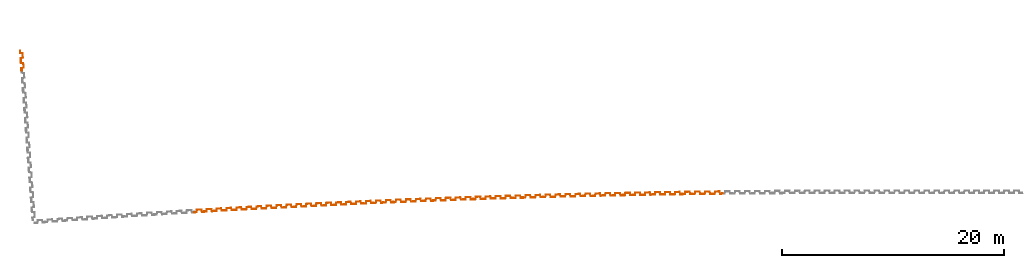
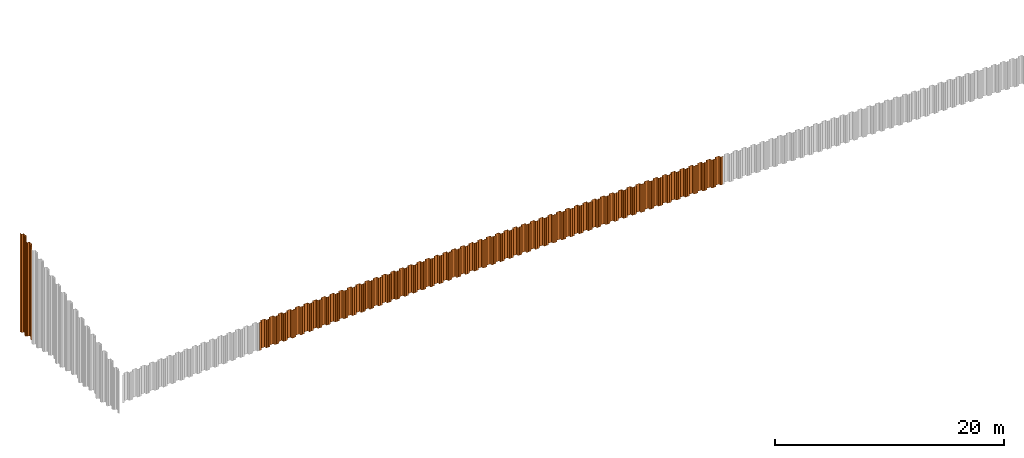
# One storey, part 6 of 12: 55 proxies.
"""IFC2X3 building model written with IfcOpenShell, lengths in millimetres."""

from ifc_helpers import new_model, entity, si_unit, converted_unit, derived_unit, direction, frame, frame_2d, origin, place, context, subcontext, project, spatial, polyline, circle_curve, parameter, trimmed, segment, composite_curve, outline, extrude, source, transform, mapped, material, type_object, type_shapes, element, save


model = new_model("IFC2X3")

# Units and contexts
model_context = context("Model", 3, precision=0.01, world=origin(), true_north=direction((6.12303176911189e-17, 1.0)))
body_context = subcontext(model_context, "Body", "Model", "MODEL_VIEW")
ifc_project = project(units=[si_unit("LENGTHUNIT", "METRE", prefix="MILLI"), si_unit("AREAUNIT", "SQUARE_METRE"), si_unit("VOLUMEUNIT", "CUBIC_METRE"), converted_unit("PLANEANGLEUNIT", "DEGREE", entity("IfcRatioMeasure", 0.0174532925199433), si_unit("PLANEANGLEUNIT", "RADIAN"), dimensions=[0, 0, 0, 0, 0, 0, 0]), si_unit("MASSUNIT", "GRAM", prefix="KILO"), derived_unit("MASSDENSITYUNIT", [(si_unit("MASSUNIT", "GRAM", prefix="KILO"), 1), (si_unit("LENGTHUNIT", "METRE"), -3)]), derived_unit("MOMENTOFINERTIAUNIT", [(si_unit("LENGTHUNIT", "METRE"), 4)]), si_unit("TIMEUNIT", "SECOND"), si_unit("FREQUENCYUNIT", "HERTZ"), si_unit("THERMODYNAMICTEMPERATUREUNIT", "DEGREE_CELSIUS"), derived_unit("THERMALTRANSMITTANCEUNIT", [(si_unit("MASSUNIT", "GRAM", prefix="KILO"), 1), (si_unit("THERMODYNAMICTEMPERATUREUNIT", "KELVIN"), -1), (si_unit("TIMEUNIT", "SECOND"), -3)]), derived_unit("VOLUMETRICFLOWRATEUNIT", [(si_unit("LENGTHUNIT", "METRE"), 3), (si_unit("TIMEUNIT", "SECOND"), -1)]), si_unit("ELECTRICCURRENTUNIT", "AMPERE"), si_unit("ELECTRICVOLTAGEUNIT", "VOLT"), si_unit("POWERUNIT", "WATT"), si_unit("FORCEUNIT", "NEWTON", prefix="KILO"), si_unit("ILLUMINANCEUNIT", "LUX"), si_unit("LUMINOUSFLUXUNIT", "LUMEN"), si_unit("LUMINOUSINTENSITYUNIT", "CANDELA"), derived_unit("USERDEFINED", [(si_unit("MASSUNIT", "GRAM", prefix="KILO"), -1), (si_unit("LENGTHUNIT", "METRE"), -2), (si_unit("TIMEUNIT", "SECOND"), 3), (si_unit("LUMINOUSFLUXUNIT", "LUMEN"), 1)]), derived_unit("LINEARVELOCITYUNIT", [(si_unit("LENGTHUNIT", "METRE"), 1), (si_unit("TIMEUNIT", "SECOND"), -1)]), si_unit("PRESSUREUNIT", "PASCAL"), derived_unit("USERDEFINED", [(si_unit("LENGTHUNIT", "METRE"), -2), (si_unit("MASSUNIT", "GRAM", prefix="KILO"), 1), (si_unit("TIMEUNIT", "SECOND"), -2)]), derived_unit("LINEARFORCEUNIT", [(si_unit("MASSUNIT", "GRAM", prefix="KILO"), 1), (si_unit("LENGTHUNIT", "METRE"), 1), (si_unit("TIMEUNIT", "SECOND"), -2), (si_unit("LENGTHUNIT", "METRE"), -1)]), derived_unit("PLANARFORCEUNIT", [(si_unit("MASSUNIT", "GRAM", prefix="KILO"), 1), (si_unit("LENGTHUNIT", "METRE"), 1), (si_unit("TIMEUNIT", "SECOND"), -2), (si_unit("LENGTHUNIT", "METRE"), -2)])], contexts=[model_context])

# Site, building, storey
site_placement = place(None, origin())
site = spatial("IfcSite", under=ifc_project, at=site_placement, Name="Default", CompositionType="ELEMENT")
building_placement = place(site_placement, origin())
building = spatial("IfcBuilding", under=site, at=building_placement, CompositionType="ELEMENT")
storey_placement = place(building_placement, frame((0.0, 0.0, 10600.0)))
storey = spatial("IfcBuildingStorey", under=building, at=storey_placement, Name="AP+10.600", CompositionType="ELEMENT", Elevation=10600.0)

# Proxies
ifc_material = material(Name="<Unnamed>")
building_element_proxy_type_1 = type_object("IfcBuildingElementProxyType", Name="鋼矢板10H型:鋼矢板10H型", PredefinedType="NOTDEFINED", material=ifc_material)
shared_shape_1 = source(origin(), body_context, "Body", "SweptSolid", [
    extrude(outline(composite_curve([segment(trimmed(circle_curve(frame_2d((85.3662976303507, 306.644432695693), x_axis=(0.422618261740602, 0.906307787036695)), 13.885714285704), [parameter(24.9999999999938)], [parameter(90.0000000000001)], True, "PARAMETER"), True, "CONTINUOUS"), segment(polyline([(72.7815666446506, 312.512789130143), (9.8129512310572, 177.476157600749)]), True, "CONTINUOUS"), segment(trimmed(circle_curve(frame_2d((29.3891994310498, 168.347603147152), x_axis=(0.422618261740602, 0.906307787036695)), 21.6), [parameter(90.0000000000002)], [parameter(168.69006752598)], True, "PARAMETER"), True, "CONTINUOUS"), segment(polyline([(16.598697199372, 150.941769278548), (175.329723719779, 34.2998683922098)]), True, "CONTINUOUS"), segment(trimmed(circle_curve(frame_2d((168.93447260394, 25.596951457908), x_axis=(0.422618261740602, 0.906307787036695)), 10.7999999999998), [parameter(270.0)], [parameter(348.690067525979)], True, "PARAMETER"), False, "CONTINUOUS"), segment(polyline([(178.722596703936, 21.0326742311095), (18.2974003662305, -323.000269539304)]), True, "CONTINUOUS"), segment(trimmed(circle_curve(frame_2d((8.50927626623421, -318.435992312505), x_axis=(0.422618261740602, 0.906307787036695)), 10.8), [parameter(191.30993247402)], [parameter(269.999999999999)], True, "PARAMETER"), False, "CONTINUOUS"), segment(polyline([(5.95324328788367, -328.929166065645), (-185.429973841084, -282.310113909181)]), True, "CONTINUOUS"), segment(trimmed(circle_curve(frame_2d((-190.542039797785, -303.296461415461), x_axis=(0.422618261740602, 0.906307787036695)), 21.6000000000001), [parameter(11.3099324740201)], [parameter(90.0000000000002)], True, "PARAMETER"), True, "CONTINUOUS"), segment(polyline([(-210.118287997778, -294.167906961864), (-290.330886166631, -466.184378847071)]), True, "CONTINUOUS"), segment(trimmed(circle_curve(frame_2d((-270.754637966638, -475.312933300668), x_axis=(0.422618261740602, 0.906307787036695)), 21.6), [parameter(90.0000000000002)], [parameter(269.999999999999)], True, "PARAMETER"), True, "CONTINUOUS"), segment(polyline([(-251.178389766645, -484.441487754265), (-249.065298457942, -479.909948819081)]), True, "CONTINUOUS"), segment(polyline([(-249.065298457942, -479.909948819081), (-258.853422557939, -475.345671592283)]), True, "CONTINUOUS"), segment(polyline([(-258.853422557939, -475.345671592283), (-260.966513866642, -479.877210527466)]), True, "CONTINUOUS"), segment(trimmed(circle_curve(frame_2d((-270.754637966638, -475.312933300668), x_axis=(0.422618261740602, 0.906307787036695)), 10.8), [parameter(90.0000000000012)], [parameter(270.0)], True, "PARAMETER"), False, "CONTINUOUS"), segment(polyline([(-280.542762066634, -470.748656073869), (-200.330163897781, -298.732184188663)]), True, "CONTINUOUS"), segment(trimmed(circle_curve(frame_2d((-190.542039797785, -303.296461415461), x_axis=(0.422618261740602, 0.906307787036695)), 10.8), [parameter(11.3099324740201)], [parameter(89.9999999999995)], True, "PARAMETER"), False, "CONTINUOUS"), segment(polyline([(-187.986006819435, -292.803287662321), (3.39721030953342, -339.422339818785)]), True, "CONTINUOUS"), segment(trimmed(circle_curve(frame_2d((8.50927626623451, -318.435992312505), x_axis=(0.422618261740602, 0.906307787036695)), 21.6), [parameter(191.30993247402)], [parameter(270.0)], True, "PARAMETER"), True, "CONTINUOUS"), segment(polyline([(28.0855244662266, -327.564546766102), (188.510720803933, 16.4683970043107)]), True, "CONTINUOUS"), segment(trimmed(circle_curve(frame_2d((168.93447260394, 25.5969514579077), x_axis=(0.422618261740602, 0.906307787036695)), 21.6), [parameter(270.0)], [parameter(348.69006752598)], True, "PARAMETER"), True, "CONTINUOUS"), segment(polyline([(181.724974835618, 43.0027853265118), (22.9939483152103, 159.644686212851)]), True, "CONTINUOUS"), segment(trimmed(circle_curve(frame_2d((29.3891994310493, 168.347603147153), x_axis=(0.422618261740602, 0.906307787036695)), 10.7999999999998), [parameter(89.9999999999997)], [parameter(168.690067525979)], True, "PARAMETER"), False, "CONTINUOUS"), segment(polyline([(19.6010753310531, 172.911880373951), (82.5696907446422, 307.948511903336)]), True, "CONTINUOUS"), segment(trimmed(circle_curve(frame_2d((85.3662976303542, 306.64443269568), x_axis=(0.422618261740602, 0.906307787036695)), 3.08571428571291), [parameter(25.0000000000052)], [parameter(90.0000000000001)], True, "PARAMETER"), False, "CONTINUOUS"), segment(polyline([(85.3662976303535, 309.730146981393), (122.220231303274, 309.730146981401)]), True, "CONTINUOUS"), segment(trimmed(circle_curve(frame_2d((122.220231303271, 323.615861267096), x_axis=(0.422618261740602, 0.906307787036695)), 13.8857142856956), [parameter(205.000000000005)], [parameter(270.0)], True, "PARAMETER"), True, "CONTINUOUS"), segment(polyline([(134.804962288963, 317.747504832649), (141.079261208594, 331.202782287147)]), True, "CONTINUOUS"), segment(trimmed(circle_curve(frame_2d((121.503013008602, 340.331336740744), x_axis=(0.422618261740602, 0.906307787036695)), 21.6), [parameter(270.0)], [parameter(90.0000000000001)], True, "PARAMETER"), True, "CONTINUOUS"), segment(polyline([(101.926764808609, 349.459891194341), (99.8136734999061, 344.928352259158)]), True, "CONTINUOUS"), segment(polyline([(99.8136734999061, 344.928352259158), (109.601797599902, 340.364075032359)]), True, "CONTINUOUS"), segment(polyline([(109.601797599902, 340.364075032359), (111.714888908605, 344.895613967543)]), True, "CONTINUOUS"), segment(trimmed(circle_curve(frame_2d((121.503013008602, 340.331336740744), x_axis=(0.422618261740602, 0.906307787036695)), 10.8), [parameter(270.0)], [parameter(89.9999999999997)], True, "PARAMETER"), False, "CONTINUOUS"), segment(polyline([(131.291137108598, 335.767059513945), (125.01683818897, 322.311782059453)]), True, "CONTINUOUS"), segment(trimmed(circle_curve(frame_2d((122.220231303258, 323.615861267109), x_axis=(0.422618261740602, 0.906307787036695)), 3.08571428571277), [parameter(204.999999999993)], [parameter(270.0)], True, "PARAMETER"), False, "CONTINUOUS"), segment(polyline([(122.220231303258, 320.530146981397), (85.3662976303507, 320.530146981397)]), True, "CONTINUOUS")], self_intersect=False)), frame((95.205667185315, -48.8888888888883, -3000.0), z_axis=(0.0, 0.0, -1.0), x_axis=(0.4226182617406, 0.906307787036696, 0.0)), (0.0, 0.0, -1.0), 3000.0),
])
type_shapes(building_element_proxy_type_1, [shared_shape_1])
for number, where, z_axis, x_axis in (
    (1, (-26862.7466316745, -15514.3763509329, -650.0), (0.0, 0.0, 1.0), (0.999934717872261, 0.0114262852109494, 0.0)),
    (2, (-27762.6822720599, -15525.0713249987, -650.0), (0.0, 0.0, 1.0), (0.999923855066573, 0.0123403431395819, 0.0)),
    (3, (-28662.6079072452, -15536.5889481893, -650.0), (0.0, 0.0, 1.0), (0.999912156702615, 0.0132543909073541, 0.0)),
    (4, (-29562.5224905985, -15548.929206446, -650.0), (0.0, 0.0, 1.0), (0.999899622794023, 0.014168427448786, 0.0)),
    (5, (-30462.4255647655, -15562.0920941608, -650.0), (0.0, 0.0, 1.0), (0.999886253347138, 0.0150824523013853, 0.0)),
    (6, (-31362.316083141, -15576.0775953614, -650.0), (0.0, 0.0, 1.0), (0.999872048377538, 0.0159964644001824, 0.0)),
    (7, (-32262.1935883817, -15590.8857036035, -650.0), (0.0, 0.0, 1.0), (0.999857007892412, 0.0169104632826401, 0.0)),
    (8, (-33162.0570339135, -15606.5164010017, -650.0), (0.0, 0.0, 1.0), (0.999841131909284, 0.0178244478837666, 0.0)),
    (9, (-34061.9059624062, -15622.9696802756, -650.0), (0.0, 0.0, 1.0), (0.999824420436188, 0.0187384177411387, 0.0)),
    (10, (-34961.7393273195, -15640.2455216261, -650.0), (0.0, 0.0, 1.0), (0.999806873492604, 0.0196523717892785, 0.0)),
    (11, (-35861.5566713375, -15658.3439169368, -650.0), (0.0, 0.0, 1.0), (0.999788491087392, 0.0205663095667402, 0.0)),
    (12, (-36761.3569479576, -15677.2648444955, -650.0), (0.0, 0.0, 1.0), (0.999769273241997, 0.0214802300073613, 0.0)),
    (13, (-37661.1396998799, -15697.0082953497, -650.0), (0.0, 0.0, 1.0), (0.999749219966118, 0.0223941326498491, 0.0)),
    (14, (-38560.903880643, -15717.5742458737, -650.0), (0.0, 0.0, 1.0), (0.999728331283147, 0.0233080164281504, 0.0)),
    (15, (-39460.6490329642, -15738.9626862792, -650.0), (0.0, 0.0, 1.0), (0.999706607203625, 0.0242218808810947, 0.0)),
    (16, (-40360.3741104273, -15761.1735910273, -650.0), (0.0, 0.0, 1.0), (0.999684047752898, 0.0251357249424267, 0.0)),
    (17, (-41260.0786557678, -15784.2069494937, -650.0), (0.0, 0.0, 1.0), (0.999660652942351, 0.0260495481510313, 0.0)),
    (18, (-42159.7616226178, -15808.0627342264, -650.0), (0.0, 0.0, 1.0), (0.999636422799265, 0.0269633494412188, 0.0)),
    (19, (-43059.4225537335, -15832.7409337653, -650.0), (0.0, 0.0, 1.0), (0.999611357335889, 0.0278771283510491, 0.0)),
    (20, (-43959.0604027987, -15858.2415187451, -650.0), (0.0, 0.0, 1.0), (0.999585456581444, 0.0287908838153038, 0.0)),
    (21, (-44858.6747125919, -15884.56447687, -650.0), (0.0, 0.0, 1.0), (0.999558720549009, 0.0297046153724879, 0.0)),
    (22, (-45758.2644368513, -15911.7097768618, -650.0), (0.0, 0.0, 1.0), (0.999531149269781, 0.0306183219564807, 0.0)),
    (23, (-46657.8291183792, -15939.6774055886, -650.0), (0.0, 0.0, 1.0), (0.999502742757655, 0.0315320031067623, 0.0)),
    (24, (-47557.3677109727, -15968.4673298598, -650.0), (0.0, 0.0, 1.0), (0.999473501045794, 0.0324456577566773, 0.0)),
    (25, (-48456.8797574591, -15998.0795357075, -650.0), (0.0, 0.0, 1.0), (0.99944342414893, 0.0333592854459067, 0.0)),
    (26, (-49356.3642116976, -16028.5139880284, -650.0), (0.0, 0.0, 1.0), (0.999412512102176, 0.0342728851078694, 0.0)),
    (27, (-50255.8206165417, -16059.7706720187, -650.0), (0.0, 0.0, 1.0), (0.999380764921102, 0.035186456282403, 0.0)),
    (28, (-51155.247925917, -16091.8495506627, -650.0), (0.0, 0.0, 1.0), (0.999348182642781, 0.0360999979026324, 0.0)),
    (29, (-52054.645682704, -16124.7506083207, -650.0), (0.0, 0.0, 1.0), (0.99931476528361, 0.0370135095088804, 0.0)),
    (30, (-52954.0128408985, -16158.4738060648, -650.0), (0.0, 0.0, 1.0), (0.999280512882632, 0.0379269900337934, 0.0)),
    (31, (-53853.3489434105, -16193.0191274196, -650.0), (0.0, 0.0, 1.0), (0.999245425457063, 0.0388404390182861, 0.0)),
    (32, (-54752.6529443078, -16228.3865315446, -650.0), (0.0, 0.0, 1.0), (0.999209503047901, 0.0397538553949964, 0.0)),
    (33, (-55651.9243865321, -16264.576001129, -650.0), (0.0, 0.0, 1.0), (0.99917274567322, 0.0406672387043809, 0.0)),
    (34, (-56551.1622242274, -16301.5874934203, -650.0), (0.0, 0.0, 1.0), (0.999135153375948, 0.0415805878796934, 0.0)),
    (35, (-57450.3660003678, -16339.4209902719, -650.0), (0.0, 0.0, 1.0), (0.999096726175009, 0.0424939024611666, 0.0)),
    (36, (-58349.5346691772, -16378.0764470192, -650.0), (0.0, 0.0, 1.0), (0.999057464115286, 0.043407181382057, 0.0)),
    (37, (-59248.6677736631, -16417.5538446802, -650.0), (0.0, 0.0, 1.0), (0.99901736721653, 0.0443204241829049, 0.0)),
    (38, (-60147.7642681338, -16457.8531366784, -650.0), (0.0, 0.0, 1.0), (0.998976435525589, 0.0452336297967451, 0.0)),
    (39, (-61046.8236956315, -16498.9743031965, -650.0), (0.0, 0.0, 1.0), (0.998934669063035, 0.0461467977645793, 0.0)),
    (40, (-61945.8450105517, -16540.9172957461, -650.0), (0.0, 0.0, 1.0), (0.998892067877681, 0.047059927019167, 0.0)),
    (41, (-62844.827755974, -16583.6820936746, -650.0), (0.0, 0.0, 1.0), (0.99884863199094, 0.0479730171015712, 0.0)),
    (42, (-63743.7708863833, -16627.2686465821, -650.0), (0.0, 0.0, 1.0), (0.99880436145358, 0.0488860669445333, 0.0)),
    (43, (-64642.6739448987, -16671.6769329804, -650.0), (0.0, 0.0, 1.0), (0.998759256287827, 0.0497990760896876, 0.0)),
    (44, (-65541.5358860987, -16716.9069005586, -650.0), (0.0, 0.0, 1.0), (0.998713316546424, 0.0507120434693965, 0.0)),
    (45, (-66440.3562531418, -16762.9585269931, -650.0), (0.0, 0.0, 1.0), (0.998666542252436, 0.0516249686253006, 0.0)),
    (46, (-67339.1340007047, -16809.8317580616, -650.0), (0.0, 0.0, 1.0), (0.998618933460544, 0.052537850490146, 0.0)),
    (47, (-68237.868671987, -16857.5265706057, -650.0), (0.0, 0.0, 1.0), (0.998570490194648, 0.0534506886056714, 0.0)),
    (48, (-69136.5592217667, -16906.0429084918, -650.0), (0.0, 0.0, 1.0), (0.998521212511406, 0.0543634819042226, 0.0)),
    (49, (-70035.2051932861, -16955.3807477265, -650.0), (0.0, 0.0, 1.0), (0.998471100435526, 0.0552762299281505, 0.0)),
    (50, (-70933.8055414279, -17005.5400302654, -650.0), (0.0, 0.0, 1.0), (0.998420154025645, 0.0561889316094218, 0.0)),
    (51, (-71832.3598094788, -17056.52073128, -650.0), (0.0, 0.0, 1.0), (0.998368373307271, 0.057101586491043, 0.0)),
    (52, (-72730.8669524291, -17108.3227908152, -650.0), (0.0, 0.0, 1.0), (0.998315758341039, 0.0580141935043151, 0.0)),
    (53, (-73629.3265136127, -17160.9461832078, -650.0), (0.0, 0.0, 1.0), (0.998262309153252, 0.058926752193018, 0.0)),
):
    element("IfcBuildingElementProxy", number, at=place(storey_placement, frame(where, z_axis=z_axis, x_axis=x_axis)), inside=storey, type_object=building_element_proxy_type_1, material=ifc_material, Name="鋼矢板10H型:鋼矢板10H型", ObjectType="鋼矢板10H型:鋼矢板10H型", context=body_context, shape_type="MappedRepresentation", body=[
        mapped(shared_shape_1, transform((0.0, 0.0, 0.0), scale=1.0)),
    ])
building_element_proxy_type_2 = type_object("IfcBuildingElementProxyType", Name="鋼矢板10H型:鋼矢板10H型", PredefinedType="NOTDEFINED", material=ifc_material)
shared_shape_2 = source(origin(), body_context, "Body", "SweptSolid", [
    extrude(outline(composite_curve([segment(trimmed(circle_curve(frame_2d((85.3662976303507, 306.644432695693), x_axis=(0.422618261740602, 0.906307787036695)), 13.885714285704), [parameter(24.9999999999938)], [parameter(90.0000000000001)], True, "PARAMETER"), True, "CONTINUOUS"), segment(polyline([(72.7815666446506, 312.512789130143), (9.8129512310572, 177.476157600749)]), True, "CONTINUOUS"), segment(trimmed(circle_curve(frame_2d((29.3891994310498, 168.347603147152), x_axis=(0.422618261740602, 0.906307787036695)), 21.6), [parameter(90.0000000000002)], [parameter(168.69006752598)], True, "PARAMETER"), True, "CONTINUOUS"), segment(polyline([(16.598697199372, 150.941769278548), (175.329723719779, 34.2998683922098)]), True, "CONTINUOUS"), segment(trimmed(circle_curve(frame_2d((168.93447260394, 25.596951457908), x_axis=(0.422618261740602, 0.906307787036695)), 10.7999999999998), [parameter(270.0)], [parameter(348.690067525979)], True, "PARAMETER"), False, "CONTINUOUS"), segment(polyline([(178.722596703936, 21.0326742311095), (18.2974003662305, -323.000269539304)]), True, "CONTINUOUS"), segment(trimmed(circle_curve(frame_2d((8.50927626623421, -318.435992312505), x_axis=(0.422618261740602, 0.906307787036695)), 10.8), [parameter(191.30993247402)], [parameter(269.999999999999)], True, "PARAMETER"), False, "CONTINUOUS"), segment(polyline([(5.95324328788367, -328.929166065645), (-185.429973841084, -282.310113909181)]), True, "CONTINUOUS"), segment(trimmed(circle_curve(frame_2d((-190.542039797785, -303.296461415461), x_axis=(0.422618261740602, 0.906307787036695)), 21.6000000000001), [parameter(11.3099324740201)], [parameter(90.0000000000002)], True, "PARAMETER"), True, "CONTINUOUS"), segment(polyline([(-210.118287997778, -294.167906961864), (-290.330886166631, -466.184378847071)]), True, "CONTINUOUS"), segment(trimmed(circle_curve(frame_2d((-270.754637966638, -475.312933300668), x_axis=(0.422618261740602, 0.906307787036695)), 21.6), [parameter(90.0000000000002)], [parameter(269.999999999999)], True, "PARAMETER"), True, "CONTINUOUS"), segment(polyline([(-251.178389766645, -484.441487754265), (-249.065298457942, -479.909948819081)]), True, "CONTINUOUS"), segment(polyline([(-249.065298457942, -479.909948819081), (-258.853422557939, -475.345671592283)]), True, "CONTINUOUS"), segment(polyline([(-258.853422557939, -475.345671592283), (-260.966513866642, -479.877210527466)]), True, "CONTINUOUS"), segment(trimmed(circle_curve(frame_2d((-270.754637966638, -475.312933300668), x_axis=(0.422618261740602, 0.906307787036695)), 10.8), [parameter(90.0000000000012)], [parameter(270.0)], True, "PARAMETER"), False, "CONTINUOUS"), segment(polyline([(-280.542762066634, -470.748656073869), (-200.330163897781, -298.732184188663)]), True, "CONTINUOUS"), segment(trimmed(circle_curve(frame_2d((-190.542039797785, -303.296461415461), x_axis=(0.422618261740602, 0.906307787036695)), 10.8), [parameter(11.3099324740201)], [parameter(89.9999999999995)], True, "PARAMETER"), False, "CONTINUOUS"), segment(polyline([(-187.986006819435, -292.803287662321), (3.39721030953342, -339.422339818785)]), True, "CONTINUOUS"), segment(trimmed(circle_curve(frame_2d((8.50927626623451, -318.435992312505), x_axis=(0.422618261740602, 0.906307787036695)), 21.6), [parameter(191.30993247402)], [parameter(270.0)], True, "PARAMETER"), True, "CONTINUOUS"), segment(polyline([(28.0855244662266, -327.564546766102), (188.510720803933, 16.4683970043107)]), True, "CONTINUOUS"), segment(trimmed(circle_curve(frame_2d((168.93447260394, 25.5969514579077), x_axis=(0.422618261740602, 0.906307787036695)), 21.6), [parameter(270.0)], [parameter(348.69006752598)], True, "PARAMETER"), True, "CONTINUOUS"), segment(polyline([(181.724974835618, 43.0027853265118), (22.9939483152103, 159.644686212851)]), True, "CONTINUOUS"), segment(trimmed(circle_curve(frame_2d((29.3891994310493, 168.347603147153), x_axis=(0.422618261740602, 0.906307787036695)), 10.7999999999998), [parameter(89.9999999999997)], [parameter(168.690067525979)], True, "PARAMETER"), False, "CONTINUOUS"), segment(polyline([(19.6010753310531, 172.911880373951), (82.5696907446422, 307.948511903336)]), True, "CONTINUOUS"), segment(trimmed(circle_curve(frame_2d((85.3662976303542, 306.64443269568), x_axis=(0.422618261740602, 0.906307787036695)), 3.08571428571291), [parameter(25.0000000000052)], [parameter(90.0000000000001)], True, "PARAMETER"), False, "CONTINUOUS"), segment(polyline([(85.3662976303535, 309.730146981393), (122.220231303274, 309.730146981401)]), True, "CONTINUOUS"), segment(trimmed(circle_curve(frame_2d((122.220231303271, 323.615861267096), x_axis=(0.422618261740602, 0.906307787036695)), 13.8857142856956), [parameter(205.000000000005)], [parameter(270.0)], True, "PARAMETER"), True, "CONTINUOUS"), segment(polyline([(134.804962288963, 317.747504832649), (141.079261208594, 331.202782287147)]), True, "CONTINUOUS"), segment(trimmed(circle_curve(frame_2d((121.503013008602, 340.331336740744), x_axis=(0.422618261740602, 0.906307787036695)), 21.6), [parameter(270.0)], [parameter(90.0000000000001)], True, "PARAMETER"), True, "CONTINUOUS"), segment(polyline([(101.926764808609, 349.459891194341), (99.8136734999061, 344.928352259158)]), True, "CONTINUOUS"), segment(polyline([(99.8136734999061, 344.928352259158), (109.601797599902, 340.364075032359)]), True, "CONTINUOUS"), segment(polyline([(109.601797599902, 340.364075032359), (111.714888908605, 344.895613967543)]), True, "CONTINUOUS"), segment(trimmed(circle_curve(frame_2d((121.503013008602, 340.331336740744), x_axis=(0.422618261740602, 0.906307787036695)), 10.8), [parameter(270.0)], [parameter(89.9999999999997)], True, "PARAMETER"), False, "CONTINUOUS"), segment(polyline([(131.291137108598, 335.767059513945), (125.01683818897, 322.311782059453)]), True, "CONTINUOUS"), segment(trimmed(circle_curve(frame_2d((122.220231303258, 323.615861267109), x_axis=(0.422618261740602, 0.906307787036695)), 3.08571428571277), [parameter(204.999999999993)], [parameter(270.0)], True, "PARAMETER"), False, "CONTINUOUS"), segment(polyline([(122.220231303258, 320.530146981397), (85.3662976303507, 320.530146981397)]), True, "CONTINUOUS")], self_intersect=False)), frame((95.205667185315, -48.8888888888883, -10000.0), z_axis=(0.0, 0.0, -1.0), x_axis=(0.4226182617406, 0.906307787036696, 0.0)), (0.0, 0.0, -1.0), 10000.0),
])
type_shapes(building_element_proxy_type_2, [shared_shape_2])
proxy_1_placement = place(storey_placement, frame((-89594.172445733, -4038.92493886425, 5165.75268431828), z_axis=(0.0, 0.0, 1.0), x_axis=(0.0743258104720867, -0.997234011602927, 0.0)))
element("IfcBuildingElementProxy", 54, at=proxy_1_placement, inside=storey, type_object=building_element_proxy_type_2, material=ifc_material, Name="鋼矢板10H型:鋼矢板10H型", ObjectType="鋼矢板10H型:鋼矢板10H型", context=body_context, shape_type="MappedRepresentation", body=[
    mapped(shared_shape_2, transform((0.0, 0.0, 0.0), scale=1.0)),
])
building_element_proxy_type_3 = type_object("IfcBuildingElementProxyType", Name="鋼矢板10H型:鋼矢板10H型", PredefinedType="NOTDEFINED", material=ifc_material)
shared_shape_3 = source(origin(), body_context, "Body", "SweptSolid", [
    extrude(outline(composite_curve([segment(trimmed(circle_curve(frame_2d((85.3662976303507, 306.644432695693), x_axis=(0.422618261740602, 0.906307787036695)), 13.885714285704), [parameter(24.9999999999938)], [parameter(90.0000000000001)], True, "PARAMETER"), True, "CONTINUOUS"), segment(polyline([(72.7815666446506, 312.512789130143), (9.8129512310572, 177.476157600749)]), True, "CONTINUOUS"), segment(trimmed(circle_curve(frame_2d((29.3891994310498, 168.347603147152), x_axis=(0.422618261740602, 0.906307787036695)), 21.6), [parameter(90.0000000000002)], [parameter(168.69006752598)], True, "PARAMETER"), True, "CONTINUOUS"), segment(polyline([(16.598697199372, 150.941769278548), (175.329723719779, 34.2998683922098)]), True, "CONTINUOUS"), segment(trimmed(circle_curve(frame_2d((168.93447260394, 25.596951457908), x_axis=(0.422618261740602, 0.906307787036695)), 10.7999999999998), [parameter(270.0)], [parameter(348.690067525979)], True, "PARAMETER"), False, "CONTINUOUS"), segment(polyline([(178.722596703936, 21.0326742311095), (18.2974003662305, -323.000269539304)]), True, "CONTINUOUS"), segment(trimmed(circle_curve(frame_2d((8.50927626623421, -318.435992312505), x_axis=(0.422618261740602, 0.906307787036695)), 10.8), [parameter(191.30993247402)], [parameter(269.999999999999)], True, "PARAMETER"), False, "CONTINUOUS"), segment(polyline([(5.95324328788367, -328.929166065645), (-185.429973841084, -282.310113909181)]), True, "CONTINUOUS"), segment(trimmed(circle_curve(frame_2d((-190.542039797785, -303.296461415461), x_axis=(0.422618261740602, 0.906307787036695)), 21.6000000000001), [parameter(11.3099324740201)], [parameter(90.0000000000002)], True, "PARAMETER"), True, "CONTINUOUS"), segment(polyline([(-210.118287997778, -294.167906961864), (-290.330886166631, -466.184378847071)]), True, "CONTINUOUS"), segment(trimmed(circle_curve(frame_2d((-270.754637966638, -475.312933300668), x_axis=(0.422618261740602, 0.906307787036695)), 21.6), [parameter(90.0000000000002)], [parameter(269.999999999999)], True, "PARAMETER"), True, "CONTINUOUS"), segment(polyline([(-251.178389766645, -484.441487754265), (-249.065298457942, -479.909948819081)]), True, "CONTINUOUS"), segment(polyline([(-249.065298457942, -479.909948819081), (-258.853422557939, -475.345671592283)]), True, "CONTINUOUS"), segment(polyline([(-258.853422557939, -475.345671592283), (-260.966513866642, -479.877210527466)]), True, "CONTINUOUS"), segment(trimmed(circle_curve(frame_2d((-270.754637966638, -475.312933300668), x_axis=(0.422618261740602, 0.906307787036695)), 10.8), [parameter(90.0000000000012)], [parameter(270.0)], True, "PARAMETER"), False, "CONTINUOUS"), segment(polyline([(-280.542762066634, -470.748656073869), (-200.330163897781, -298.732184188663)]), True, "CONTINUOUS"), segment(trimmed(circle_curve(frame_2d((-190.542039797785, -303.296461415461), x_axis=(0.422618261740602, 0.906307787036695)), 10.8), [parameter(11.3099324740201)], [parameter(89.9999999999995)], True, "PARAMETER"), False, "CONTINUOUS"), segment(polyline([(-187.986006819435, -292.803287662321), (3.39721030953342, -339.422339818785)]), True, "CONTINUOUS"), segment(trimmed(circle_curve(frame_2d((8.50927626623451, -318.435992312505), x_axis=(0.422618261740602, 0.906307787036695)), 21.6), [parameter(191.30993247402)], [parameter(270.0)], True, "PARAMETER"), True, "CONTINUOUS"), segment(polyline([(28.0855244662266, -327.564546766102), (188.510720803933, 16.4683970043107)]), True, "CONTINUOUS"), segment(trimmed(circle_curve(frame_2d((168.93447260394, 25.5969514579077), x_axis=(0.422618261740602, 0.906307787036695)), 21.6), [parameter(270.0)], [parameter(348.69006752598)], True, "PARAMETER"), True, "CONTINUOUS"), segment(polyline([(181.724974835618, 43.0027853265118), (22.9939483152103, 159.644686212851)]), True, "CONTINUOUS"), segment(trimmed(circle_curve(frame_2d((29.3891994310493, 168.347603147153), x_axis=(0.422618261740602, 0.906307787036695)), 10.7999999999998), [parameter(89.9999999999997)], [parameter(168.690067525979)], True, "PARAMETER"), False, "CONTINUOUS"), segment(polyline([(19.6010753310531, 172.911880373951), (82.5696907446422, 307.948511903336)]), True, "CONTINUOUS"), segment(trimmed(circle_curve(frame_2d((85.3662976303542, 306.64443269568), x_axis=(0.422618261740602, 0.906307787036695)), 3.08571428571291), [parameter(25.0000000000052)], [parameter(90.0000000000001)], True, "PARAMETER"), False, "CONTINUOUS"), segment(polyline([(85.3662976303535, 309.730146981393), (122.220231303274, 309.730146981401)]), True, "CONTINUOUS"), segment(trimmed(circle_curve(frame_2d((122.220231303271, 323.615861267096), x_axis=(0.422618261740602, 0.906307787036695)), 13.8857142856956), [parameter(205.000000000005)], [parameter(270.0)], True, "PARAMETER"), True, "CONTINUOUS"), segment(polyline([(134.804962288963, 317.747504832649), (141.079261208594, 331.202782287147)]), True, "CONTINUOUS"), segment(trimmed(circle_curve(frame_2d((121.503013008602, 340.331336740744), x_axis=(0.422618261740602, 0.906307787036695)), 21.6), [parameter(270.0)], [parameter(90.0000000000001)], True, "PARAMETER"), True, "CONTINUOUS"), segment(polyline([(101.926764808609, 349.459891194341), (99.8136734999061, 344.928352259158)]), True, "CONTINUOUS"), segment(polyline([(99.8136734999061, 344.928352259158), (109.601797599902, 340.364075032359)]), True, "CONTINUOUS"), segment(polyline([(109.601797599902, 340.364075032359), (111.714888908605, 344.895613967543)]), True, "CONTINUOUS"), segment(trimmed(circle_curve(frame_2d((121.503013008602, 340.331336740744), x_axis=(0.422618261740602, 0.906307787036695)), 10.8), [parameter(270.0)], [parameter(89.9999999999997)], True, "PARAMETER"), False, "CONTINUOUS"), segment(polyline([(131.291137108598, 335.767059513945), (125.01683818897, 322.311782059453)]), True, "CONTINUOUS"), segment(trimmed(circle_curve(frame_2d((122.220231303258, 323.615861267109), x_axis=(0.422618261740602, 0.906307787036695)), 3.08571428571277), [parameter(204.999999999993)], [parameter(270.0)], True, "PARAMETER"), False, "CONTINUOUS"), segment(polyline([(122.220231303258, 320.530146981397), (85.3662976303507, 320.530146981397)]), True, "CONTINUOUS")], self_intersect=False)), frame((95.205667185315, -48.8888888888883, -10500.0), z_axis=(0.0, 0.0, -1.0), x_axis=(0.4226182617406, 0.906307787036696, 0.0)), (0.0, 0.0, -1.0), 10500.0),
])
type_shapes(building_element_proxy_type_3, [shared_shape_3])
proxy_2_placement = place(storey_placement, frame((-89661.0656751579, -3141.4143284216, 5531.23393431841), z_axis=(0.0, 0.0, 1.0), x_axis=(0.0743258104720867, -0.997234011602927, 0.0)))
element("IfcBuildingElementProxy", 55, at=proxy_2_placement, inside=storey, type_object=building_element_proxy_type_3, material=ifc_material, Name="鋼矢板10H型:鋼矢板10H型", ObjectType="鋼矢板10H型:鋼矢板10H型", context=body_context, shape_type="MappedRepresentation", body=[
    mapped(shared_shape_3, transform((0.0, 0.0, 0.0), scale=1.0)),
])

save(model, "model.ifc")
